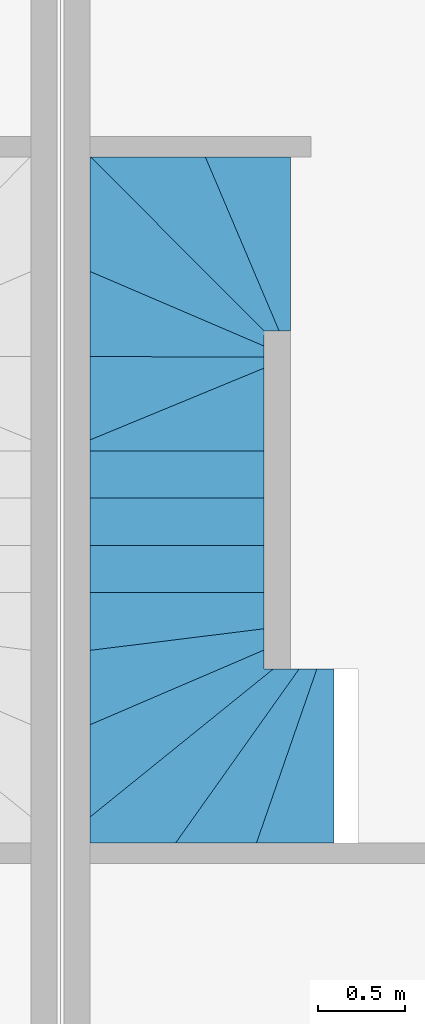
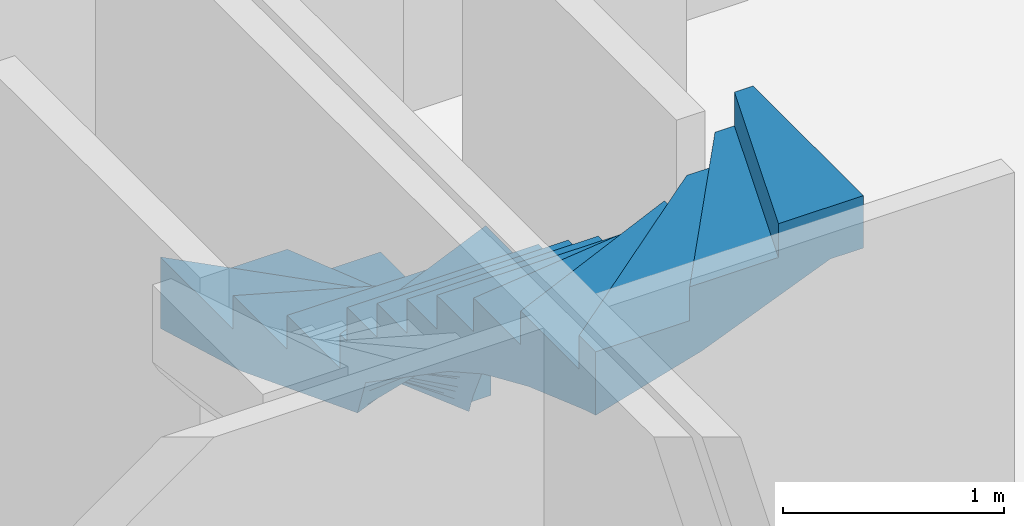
# One storey, part 4 of 8: 1 stair.
"""IFC2X3 building model written with IfcOpenShell, lengths in metres."""

from ifc_helpers import new_model, entity, si_unit, converted_unit, money_unit, direction, frame, origin_with_axes, place, context, subcontext, project, spatial, faceted_brep, source, transform, mapped, material, element, save


model = new_model("IFC2X3")

# Units and contexts
model_context = context("Model", 3, precision=1e-05, world=origin_with_axes(), true_north=direction((0.0, 1.0)))
body_context = subcontext(model_context, "Body", "Model", "MODEL_VIEW")
ifc_project = project(units=[si_unit("LENGTHUNIT", "METRE"), si_unit("AREAUNIT", "SQUARE_METRE"), si_unit("VOLUMEUNIT", "CUBIC_METRE"), converted_unit("PLANEANGLEUNIT", "DEGREE", entity("IfcPlaneAngleMeasure", 0.0174532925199), si_unit("PLANEANGLEUNIT", "RADIAN"), dimensions=[0, 0, 0, 0, 0, 0, 0]), si_unit("SOLIDANGLEUNIT", "STERADIAN"), money_unit("EUR"), si_unit("TIMEUNIT", "SECOND"), si_unit("MASSUNIT", "GRAM"), si_unit("THERMODYNAMICTEMPERATUREUNIT", "DEGREE_CELSIUS"), si_unit("LUMINOUSINTENSITYUNIT", "LUMEN")], contexts=[model_context])

# Site, building, storey
site_placement = place(None, origin_with_axes())
site = spatial("IfcSite", under=ifc_project, at=site_placement, Name="Gelände", CompositionType="ELEMENT")
building_placement = place(site_placement, origin_with_axes())
building = spatial("IfcBuilding", under=site, at=building_placement, Name="Gebäude", CompositionType="ELEMENT")
storey_placement = place(building_placement, origin_with_axes())
storey = spatial("IfcBuildingStorey", under=building, at=storey_placement, Name="Erdgeschoss", CompositionType="ELEMENT", Elevation=0.0)

# Stair
ifc_material = material(Name="Beton")
shared_shape = source(origin_with_axes(), body_context, "Body", "Brep", [
    faceted_brep([(0.0, 0.0, 0.0), (0.0, 0.0, 0.005), (-1.0, 0.0, 0.005), (-1.0, 0.0, 0.0), (0.0, 0.03966, 0.0), (0.0, 0.03966, 0.18667), (0.0, 0.0, 0.18667), (-1.0, 0.0, 0.18667), (-1.0, 0.0375, 0.18667), (-1.0, 0.0375, 0.0), (-1.0, 0.14947, 0.0), (0.0, 0.07931, 0.0), (0.0, 0.07931, 0.18667), (0.0, 0.11897, 0.18667), (0.0, 0.15862, 0.18667), (0.0, 0.19828, 0.18667), (0.0, 0.23793, 0.18667), (0.0, 0.27759, 0.18667), (0.0, 0.31724, 0.18667), (0.0, 0.3569, 0.18667), (0.0, 0.39655, 0.18667), (0.0, 0.43621, 0.18667), (0.0, 0.47586, 0.18667), (0.0, 0.48778, 0.18667), (-1.0, 0.06362, 0.18667), (-1.0, 0.06362, 0.0), (-1.0, 0.1125, 0.0), (0.0, 0.11897, 0.0), (0.0, 0.15862, 0.0), (0.0, 0.19828, 0.0), (0.0, 0.23793, 0.0), (0.0, 0.27759, 0.0), (0.0, 0.31724, 0.0), (0.0, 0.3569, 0.0), (0.0, 0.39655, 0.0), (0.0, 0.43621, 0.0), (0.0, 0.47586, 0.0), (0.0, 0.48778, 0.0), (0.0, 0.48778, 0.37333), (-1.0, 0.06362, 0.37333), (-1.0, 0.075, 0.37333), (-1.0, 0.075, 0.0), (-1.0, 0.1125, 0.37333), (-1.0, 0.14947, 0.37333), (-1.0613, 0.15, 0.0), (0.0, 0.51552, 0.0), (0.0, 0.51552, 0.37333), (0.0, 0.55517, 0.37333), (0.0, 0.5626, 0.37333), (0.0, 0.59483, 0.37333), (0.0, 0.63448, 0.37333), (0.0, 0.67414, 0.37333), (0.0, 0.71379, 0.37333), (0.0, 0.75345, 0.37333), (0.0, 0.7931, 0.37333), (0.0, 0.83276, 0.37333), (0.0, 0.87241, 0.37333), (0.0, 0.91207, 0.37333), (0.0, 0.95172, 0.37333), (0.0, 0.99138, 0.37333), (0.0, 1.03103, 0.37333), (0.0, 1.07069, 0.37333), (0.0, 1.11034, 0.37333), (0.0, 1.14594, 0.37333), (-1.0, 0.14947, 0.56), (-1.03959, 0.15, 0.56), (-1.03959, 0.15, 0.0), (0.0, 0.55517, 0.0), (0.0, 0.5626, 0.0), (0.0, 0.59483, 0.00912), (0.0, 0.63448, 0.02034), (0.0, 0.67414, 0.03155), (0.0, 0.71379, 0.04277), (0.0, 0.75345, 0.05399), (0.0, 0.7931, 0.06521), (0.0, 0.83276, 0.07643), (0.0, 0.87241, 0.08765), (0.0, 0.91207, 0.09887), (0.0, 0.95172, 0.11009), (0.0, 0.99138, 0.1213), (0.0, 1.03103, 0.13252), (0.0, 1.07069, 0.14374), (0.0, 1.11034, 0.15496), (0.0, 1.14594, 0.16503), (0.0, 1.14594, 0.56), (0.0, 1.15, 0.56), (-0.0398, 1.15, 0.56), (-0.0796, 1.15, 0.56), (-0.11939, 1.15, 0.56), (-0.15919, 1.15, 0.56), (-0.19899, 1.15, 0.56), (-0.23879, 1.15, 0.56), (-0.27859, 1.15, 0.56), (-0.31838, 1.15, 0.56), (-0.35818, 1.15, 0.56), (-0.39798, 1.15, 0.56), (-0.43778, 1.15, 0.56), (-0.47758, 1.15, 0.56), (-0.51737, 1.15, 0.56), (-0.55717, 1.15, 0.56), (-0.59697, 1.15, 0.56), (-0.63677, 1.15, 0.56), (-0.65732, 1.15, 0.56), (-1.08574, 0.15, 0.56), (-1.07918, 0.15, 0.56), (-1.0613, 0.15, 0.56), (-1.07918, 0.15, 0.05248), (-1.08574, 0.15, 0.0717), (-1.09962, 0.15, 0.11243), (-1.11878, 0.15, 0.15398), (0.0, 1.15, 0.16618), (-0.0398, 1.15, 0.17744), (-0.0796, 1.15, 0.1887), (-0.11939, 1.15, 0.19996), (-0.15919, 1.15, 0.21122), (-0.19899, 1.15, 0.22248), (-0.23879, 1.15, 0.23374), (-0.27859, 1.15, 0.245), (-0.31838, 1.15, 0.25625), (-0.35818, 1.15, 0.26751), (-0.39798, 1.15, 0.27877), (-0.43778, 1.15, 0.29003), (-0.47758, 1.15, 0.30129), (-0.51737, 1.15, 0.31255), (-0.55717, 1.15, 0.32381), (-0.59697, 1.15, 0.33507), (-0.63677, 1.15, 0.34633), (-0.65732, 1.15, 0.35214), (-0.65732, 1.15, 0.74667), (-1.08574, 0.15, 0.74667), (-1.14942, 0.15, 0.22044), (-1.15837, 0.15, 0.23985), (-1.19796, 0.15, 0.32571), (-1.21189, 0.15, 0.35593), (-0.67657, 1.15, 0.35759), (-0.67657, 1.15, 0.74667), (-0.71636, 1.15, 0.74667), (-0.72033, 1.15, 0.74667), (-0.75616, 1.15, 0.74667), (-0.79596, 1.15, 0.74667), (-0.83576, 1.15, 0.74667), (-0.87556, 1.15, 0.74667), (-0.91535, 1.15, 0.74667), (-0.95515, 1.15, 0.74667), (-0.99495, 1.15, 0.74667), (-1.03475, 1.15, 0.74667), (-1.07455, 1.15, 0.74667), (-1.11434, 1.15, 0.74667), (-1.14554, 1.15, 0.74667), (-1.14942, 0.15, 0.74667), (-1.11878, 0.15, 0.74667), (-1.09962, 0.15, 0.74667), (-0.71636, 1.15, 0.36885), (-0.72033, 1.15, 0.36997), (-0.75616, 1.15, 0.38381), (-0.79596, 1.15, 0.39918), (-0.83576, 1.15, 0.41456), (-0.87556, 1.15, 0.42993), (-0.91535, 1.15, 0.4453), (-0.95515, 1.15, 0.46067), (-0.99495, 1.15, 0.47605), (-1.03475, 1.15, 0.49142), (-1.07455, 1.15, 0.50679), (-1.11434, 1.15, 0.52217), (-1.14554, 1.15, 0.53422), (-1.14554, 1.15, 0.93333), (-1.14942, 0.15, 0.93333), (-1.15837, 0.15, 0.93333), (-1.19796, 0.15, 0.93333), (-1.21189, 0.15, 0.93333), (-1.23755, 0.15, 0.41158), (-1.27166, 0.15, 0.48556), (-1.27714, 0.15, 0.50173), (-1.15414, 1.15, 0.53754), (-1.15414, 1.15, 0.93333), (-1.19394, 1.15, 0.93333), (-1.23374, 1.15, 0.93333), (-1.27354, 1.15, 0.93333), (-1.31333, 1.15, 0.93333), (-1.35313, 1.15, 0.93333), (-1.39293, 1.15, 0.93333), (-1.43273, 1.15, 0.93333), (-1.47253, 1.15, 0.93333), (-1.51232, 1.15, 0.93333), (-1.55212, 1.15, 0.93333), (-1.59192, 1.15, 0.93333), (-1.62451, 1.15, 0.93333), (-1.21189, 0.15, 1.12), (-1.23755, 0.15, 1.12), (-1.19394, 1.15, 0.55291), (-1.23374, 1.15, 0.56829), (-1.27354, 1.15, 0.58366), (-1.31333, 1.15, 0.59903), (-1.35313, 1.15, 0.6144), (-1.39293, 1.15, 0.62978), (-1.43273, 1.15, 0.64515), (-1.47253, 1.15, 0.66052), (-1.51232, 1.15, 0.6759), (-1.55212, 1.15, 0.69127), (-1.59192, 1.15, 0.70664), (-1.62451, 1.15, 0.71923), (-1.62451, 1.15, 1.12), (-1.63172, 1.15, 1.12), (-1.67152, 1.15, 1.12), (-1.68892, 1.15, 1.12), (-1.68892, 0.15, 1.12), (-1.67306, 0.15, 1.12), (-1.63347, 0.15, 1.12), (-1.59388, 0.15, 1.12), (-1.55429, 0.15, 1.12), (-1.51469, 0.15, 1.12), (-1.4751, 0.15, 1.12), (-1.43551, 0.15, 1.12), (-1.39592, 0.15, 1.12), (-1.37187, 0.15, 1.12), (-1.35633, 0.15, 1.12), (-1.31673, 0.15, 1.12), (-1.27714, 0.15, 1.12), (-1.27166, 0.15, 1.12), (-1.31673, 0.15, 0.61852), (-1.35633, 0.15, 0.73532), (-1.63172, 1.15, 0.72201), (-1.67152, 1.15, 0.73739), (-1.68892, 1.15, 0.74411), (-1.68892, 1.15, 1.30667), (-1.68892, 0.15, 1.30667), (-1.67306, 0.15, 0.89903), (-1.68892, 0.15, 0.90523), (-1.63347, 0.15, 0.88353), (-1.59388, 0.15, 0.86804), (-1.55429, 0.15, 0.85255), (-1.51469, 0.15, 0.83706), (-1.4751, 0.15, 0.82156), (-1.43551, 0.15, 0.80607), (-1.39592, 0.15, 0.79058), (-1.37187, 0.15, 0.78117), (-1.71131, 1.15, 0.75276), (-1.71131, 1.15, 1.30667), (-1.75111, 1.15, 1.30667), (-1.78338, 1.15, 1.30667), (-1.79091, 1.15, 1.30667), (-1.83071, 1.15, 1.30667), (-1.85655, 1.15, 1.30667), (-1.87051, 1.15, 1.30667), (-1.9103, 1.15, 1.30667), (-1.9501, 1.15, 1.30667), (-1.95964, 1.15, 1.30667), (-1.95964, 0.15, 1.30667), (-1.9502, 0.15, 1.30667), (-1.91061, 0.15, 1.30667), (-1.87102, 0.15, 1.30667), (-1.83143, 0.15, 1.30667), (-1.79184, 0.15, 1.30667), (-1.78338, 0.15, 1.30667), (-1.75224, 0.15, 1.30667), (-1.71265, 0.15, 1.30667), (-1.71265, 0.15, 0.91452), (-1.83071, 1.15, 0.91776), (-1.79091, 1.15, 0.80242), (-1.78338, 1.15, 0.7806), (-1.75111, 1.15, 0.76813), (-1.85655, 1.15, 0.99265), (-1.87051, 1.15, 1.00227), (-1.9103, 1.15, 1.02971), (-1.9501, 1.15, 1.05715), (-1.95964, 1.15, 1.06373), (-1.95964, 1.15, 1.49333), (-1.95964, 0.15, 1.49333), (-1.9502, 0.15, 1.05723), (-1.95964, 0.15, 1.06373), (-1.91061, 0.15, 1.02993), (-1.87102, 0.15, 1.00263), (-1.83143, 0.15, 0.97533), (-1.79184, 0.15, 0.94803), (-1.78338, 0.15, 0.94219), (-1.75224, 0.15, 0.93001), (-1.9899, 1.15, 1.0846), (-1.9899, 1.15, 1.49333), (-2.0297, 1.15, 1.49333), (-2.06949, 1.15, 1.49333), (-2.10929, 1.15, 1.49333), (-2.14909, 1.15, 1.49333), (-2.18889, 1.15, 1.49333), (-2.22869, 1.15, 1.49333), (-2.23036, 1.15, 1.49333), (-2.23036, 0.15, 1.49333), (-2.22735, 0.15, 1.49333), (-2.18776, 0.15, 1.49333), (-2.14816, 0.15, 1.49333), (-2.10857, 0.15, 1.49333), (-2.06898, 0.15, 1.49333), (-2.02939, 0.15, 1.49333), (-1.9898, 0.15, 1.49333), (-1.9898, 0.15, 1.08452), (-2.0297, 1.15, 1.11204), (-2.06949, 1.15, 1.13948), (-2.10929, 1.15, 1.16692), (-2.14909, 1.15, 1.19436), (-2.18889, 1.15, 1.2218), (-2.22869, 1.15, 1.24924), (-2.23036, 1.15, 1.2504), (-2.23036, 1.15, 1.68), (-2.23036, 0.15, 1.68), (-2.22735, 0.15, 1.24832), (-2.23036, 0.15, 1.2504), (-2.18776, 0.15, 1.22102), (-2.14816, 0.15, 1.19372), (-2.10857, 0.15, 1.16642), (-2.06898, 0.15, 1.13912), (-2.02939, 0.15, 1.11182), (-2.26848, 1.15, 1.27669), (-2.26848, 1.15, 1.68), (-2.30828, 1.15, 1.68), (-2.34808, 1.15, 1.68), (-2.38788, 1.15, 1.68), (-2.42768, 1.15, 1.68), (-2.46747, 1.15, 1.68), (-2.50108, 1.15, 1.68), (-2.50108, 0.15, 1.68), (-2.4649, 0.15, 1.68), (-2.42531, 0.15, 1.68), (-2.38571, 0.15, 1.68), (-2.34612, 0.15, 1.68), (-2.30653, 0.15, 1.68), (-2.26694, 0.15, 1.68), (-2.26694, 0.15, 1.27562), (-2.30828, 1.15, 1.30413), (-2.34808, 1.15, 1.33157), (-2.38788, 1.15, 1.35901), (-2.42768, 1.15, 1.38645), (-2.46747, 1.15, 1.41389), (-2.50108, 1.15, 1.43706), (-2.50108, 1.15, 1.86667), (-2.50108, 0.15, 1.86667), (-2.4649, 0.15, 1.41212), (-2.50108, 0.15, 1.43706), (-2.42531, 0.15, 1.38482), (-2.38571, 0.15, 1.35752), (-2.34612, 0.15, 1.33022), (-2.30653, 0.15, 1.30292), (-2.50727, 1.15, 1.44134), (-2.50727, 1.15, 1.86667), (-2.54707, 1.15, 1.86667), (-2.58687, 1.15, 1.86667), (-2.60699, 1.15, 1.86667), (-2.62667, 1.15, 1.86667), (-2.66646, 1.15, 1.86667), (-2.70626, 1.15, 1.86667), (-2.74606, 1.15, 1.86667), (-2.78586, 1.15, 1.86667), (-2.82566, 1.15, 1.86667), (-2.83391, 1.15, 1.86667), (-2.70969, 0.15, 1.86667), (-2.70245, 0.15, 1.86667), (-2.66286, 0.15, 1.86667), (-2.62502, 0.15, 1.86667), (-2.62327, 0.15, 1.86667), (-2.58367, 0.15, 1.86667), (-2.54408, 0.15, 1.86667), (-2.50449, 0.15, 1.86667), (-2.50449, 0.15, 1.43942), (-2.54707, 1.15, 1.46878), (-2.58687, 1.15, 1.49622), (-2.60699, 1.15, 1.51009), (-2.62667, 1.15, 1.52113), (-2.66646, 1.15, 1.54345), (-2.70626, 1.15, 1.56577), (-2.74606, 1.15, 1.58809), (-2.78586, 1.15, 1.61041), (-2.82566, 1.15, 1.63273), (-2.83391, 1.15, 1.63736), (-2.83391, 1.15, 2.05333), (-2.70969, 0.15, 2.05333), (-2.70245, 0.15, 1.59181), (-2.70969, 0.15, 1.59829), (-2.66286, 0.15, 1.55638), (-2.62502, 0.15, 1.52253), (-2.62327, 0.15, 1.52131), (-2.58367, 0.15, 1.49401), (-2.54408, 0.15, 1.46672), (-2.74204, 0.15, 1.62724), (-2.86545, 1.15, 1.65505), (-2.86545, 1.15, 2.05333), (-2.90525, 1.15, 2.05333), (-2.9231, 1.15, 2.05333), (-2.94505, 1.15, 2.05333), (-2.98485, 1.15, 2.05333), (-3.02465, 1.15, 2.05333), (-3.06444, 1.15, 2.05333), (-3.10424, 1.15, 2.05333), (-3.14404, 1.15, 2.05333), (-3.18384, 1.15, 2.05333), (-3.22364, 1.15, 2.05333), (-3.26091, 1.15, 2.05333), (-2.83169, 0.15, 2.05333), (-2.82122, 0.15, 2.05333), (-2.78163, 0.15, 2.05333), (-2.74204, 0.15, 2.05333), (-2.78163, 0.15, 1.66266), (-2.90525, 1.15, 1.67737), (-2.9231, 1.15, 1.68738), (-2.94505, 1.15, 1.69698), (-2.98485, 1.15, 1.71438), (-3.02465, 1.15, 1.73177), (-3.06444, 1.15, 1.74917), (-3.10424, 1.15, 1.76657), (-3.14404, 1.15, 1.78397), (-3.18384, 1.15, 1.80137), (-3.22364, 1.15, 1.81876), (-3.26091, 1.15, 1.83506), (-3.26091, 1.15, 2.24), (-2.83169, 0.15, 2.24), (-2.82122, 0.15, 1.69809), (-2.83169, 0.15, 1.70745), (-2.86082, 0.15, 1.73352), (-2.86269, 0.15, 1.73519), (-2.90041, 0.15, 1.79291), (-2.94, 0.15, 1.85348), (-3.26343, 1.15, 1.83616), (-3.26343, 1.15, 2.24), (-3.30323, 1.15, 2.24), (-3.33429, 1.15, 2.24), (-3.34303, 1.15, 2.24), (-3.38283, 1.15, 2.24), (-3.42263, 1.15, 2.24), (-3.46242, 1.15, 2.24), (-3.50222, 1.15, 2.24), (-3.54202, 1.15, 2.24), (-3.58182, 1.15, 2.24), (-3.62162, 1.15, 2.24), (-3.66141, 1.15, 2.24), (-3.70121, 1.15, 2.24), (-3.74101, 1.15, 2.24), (-3.78081, 1.15, 2.24), (-3.79076, 1.15, 2.24), (-2.94, 0.09667, 2.24), (-2.94, 0.09828, 2.24), (-2.94, 0.11364, 2.24), (-2.94, 0.15, 2.24), (-2.90041, 0.15, 2.24), (-2.86269, 0.15, 2.24), (-2.86082, 0.15, 2.24), (-3.30323, 1.15, 1.85356), (-3.33429, 1.15, 1.86714), (-3.34303, 1.15, 1.87022), (-3.38283, 1.15, 1.88424), (-3.42263, 1.15, 1.89826), (-3.46242, 1.15, 1.91228), (-3.50222, 1.15, 1.9263), (-3.54202, 1.15, 1.94032), (-3.58182, 1.15, 1.95434), (-3.62162, 1.15, 1.96836), (-3.66141, 1.15, 1.98238), (-3.70121, 1.15, 1.9964), (-3.74101, 1.15, 2.01042), (-3.78081, 1.15, 2.02445), (-3.79076, 1.15, 2.02795), (-3.79076, 1.15, 2.42667), (-2.94, 0.09667, 2.42667), (-2.94, 0.09828, 1.93262), (-2.94, 0.09667, 1.93448), (-2.94, 0.11364, 1.90912), (-2.94, 0.07727, 1.95688), (-2.94, 0.04091, 1.99887), (-2.94, 0.00455, 2.04086), (-3.82061, 1.15, 2.03847), (-3.82061, 1.15, 2.42667), (-3.85201, 1.15, 2.42667), (-3.8604, 1.15, 2.42667), (-3.9002, 1.15, 2.42667), (-3.94, 1.15, 2.42667), (-3.94, 1.11111, 2.42667), (-3.94, 1.07222, 2.42667), (-3.94, 1.03333, 2.42667), (-3.94, 0.99444, 2.42667), (-3.94, 0.95556, 2.42667), (-3.94, 0.91667, 2.42667), (-3.94, 0.87778, 2.42667), (-3.94, 0.83889, 2.42667), (-3.94, 0.8, 2.42667), (-3.94, 0.76111, 2.42667), (-3.94, 0.72222, 2.42667), (-3.94, 0.68333, 2.42667), (-3.94, 0.65858, 2.42667), (-2.94, -0.05125, 2.42667), (-2.94, -0.03182, 2.42667), (-2.94, 0.00455, 2.42667), (-2.94, 0.04091, 2.42667), (-2.94, 0.07727, 2.42667), (-3.85201, 1.15, 2.04953), (-3.8604, 1.15, 2.05198), (-3.9002, 1.15, 2.06357), (-3.94, 1.15, 2.07517), (-3.94, 1.11111, 2.0865), (-3.94, 1.07222, 2.09783), (-3.94, 1.03333, 2.10916), (-3.94, 0.99444, 2.12049), (-3.94, 0.95556, 2.13182), (-3.94, 0.91667, 2.14315), (-3.94, 0.87778, 2.15448), (-3.94, 0.83889, 2.16581), (-3.94, 0.8, 2.17715), (-3.94, 0.76111, 2.18848), (-3.94, 0.72222, 2.19981), (-3.94, 0.68333, 2.21114), (-3.94, 0.65858, 2.21835), (-3.94, 0.65858, 2.61333), (-2.94, -0.05125, 2.61333), (-2.94, -0.03182, 2.08286), (-2.94, -0.05125, 2.1053), (-2.94, -0.05738, 2.11237), (-2.94, -0.06818, 2.12601), (-2.94, -0.10455, 2.1719), (-2.94, -0.14091, 2.21779), (-3.94, 0.64444, 2.22247), (-3.94, 0.64444, 2.61333), (-3.94, 0.60556, 2.61333), (-3.94, 0.59315, 2.61333), (-3.94, 0.56667, 2.61333), (-3.94, 0.52778, 2.61333), (-3.94, 0.48889, 2.61333), (-3.94, 0.45, 2.61333), (-3.94, 0.41111, 2.61333), (-3.94, 0.37222, 2.61333), (-3.94, 0.33333, 2.61333), (-3.94, 0.29444, 2.61333), (-3.94, 0.25556, 2.61333), (-3.94, 0.21667, 2.61333), (-3.94, 0.19426, 2.61333), (-2.94, -0.15282, 2.61333), (-2.94, -0.14091, 2.61333), (-2.94, -0.10455, 2.61333), (-2.94, -0.06818, 2.61333), (-2.94, -0.05738, 2.61333), (-3.94, 0.60556, 2.2338), (-3.94, 0.59315, 2.23742), (-3.94, 0.56667, 2.2482), (-3.94, 0.52778, 2.26404), (-3.94, 0.48889, 2.27988), (-3.94, 0.45, 2.29572), (-3.94, 0.41111, 2.31156), (-3.94, 0.37222, 2.3274), (-3.94, 0.33333, 2.34324), (-3.94, 0.29444, 2.35907), (-3.94, 0.25556, 2.37491), (-3.94, 0.21667, 2.39075), (-3.94, 0.19426, 2.39988), (-3.94, 0.19426, 2.8), (-2.94, -0.15282, 2.8), (-2.94, -0.15282, 2.23282), (-2.94, -0.17727, 2.26368), (-2.94, -0.21364, 2.30957), (-2.94, -0.21869, 2.31595), (-2.94, -0.25, 2.37348), (-3.94, 0.17778, 2.40659), (-3.94, 0.17778, 2.8), (-3.94, 0.13889, 2.8), (-3.94, 0.1, 2.8), (-3.94, 0.06111, 2.8), (-3.94, 0.02222, 2.8), (-3.94, -0.01667, 2.8), (-3.94, -0.05556, 2.8), (-3.94, -0.07611, 2.8), (-3.94, -0.09444, 2.8), (-3.94, -0.13333, 2.8), (-3.94, -0.17222, 2.8), (-3.94, -0.21111, 2.8), (-3.94, -0.25, 2.8), (-2.94, -0.25, 2.8), (-2.94, -0.21869, 2.8), (-2.94, -0.21364, 2.8), (-2.94, -0.17727, 2.8), (-3.94, 0.13889, 2.42243), (-3.94, 0.1, 2.43827), (-3.94, 0.06111, 2.45411), (-3.94, 0.02222, 2.46995), (-3.94, -0.01667, 2.48579), (-3.94, -0.05556, 2.50163), (-3.94, -0.07611, 2.51), (-3.94, -0.09444, 2.51), (-3.94, -0.13333, 2.51), (-3.94, -0.17222, 2.51), (-3.94, -0.21111, 2.51), (-3.94, -0.25, 2.51)], [[[0, 1, 2, 3]], [[0, 4, 5, 6, 1]], [[1, 6, 7, 2]], [[3, 2, 7, 8, 9]], [[3, 9, 0]], [[10, 4, 0]], [[4, 11, 12, 5]], [[6, 5, 12, 13, 14, 15, 16, 17, 18, 19, 20, 21, 22, 23, 24, 8, 7]], [[9, 8, 24, 25]], [[9, 25, 0]], [[10, 11, 4]], [[26, 10, 0]], [[11, 27, 13, 12]], [[27, 28, 14, 13]], [[28, 29, 15, 14]], [[29, 30, 16, 15]], [[30, 31, 17, 16]], [[31, 32, 18, 17]], [[32, 33, 19, 18]], [[33, 34, 20, 19]], [[34, 35, 21, 20]], [[35, 36, 22, 21]], [[36, 37, 23, 22]], [[23, 38, 39, 24]], [[25, 24, 39, 40, 41]], [[25, 41, 0]], [[10, 27, 11]], [[26, 42, 43, 10]], [[41, 26, 0]], [[10, 28, 27]], [[44, 29, 28]], [[44, 30, 29]], [[44, 31, 30]], [[44, 32, 31]], [[44, 33, 32]], [[44, 34, 33]], [[44, 35, 34]], [[44, 36, 35]], [[44, 37, 36]], [[37, 45, 46, 38, 23]], [[38, 46, 47, 48, 49, 50, 51, 52, 53, 54, 55, 56, 57, 58, 59, 60, 61, 62, 63, 43, 42, 40, 39]], [[41, 40, 42, 26]], [[10, 43, 64, 65, 66]], [[10, 66, 28]], [[66, 44, 28]], [[44, 45, 37]], [[45, 67, 47, 46]], [[67, 68, 48, 47]], [[68, 69, 49, 48]], [[69, 70, 50, 49]], [[70, 71, 51, 50]], [[71, 72, 52, 51]], [[72, 73, 53, 52]], [[73, 74, 54, 53]], [[74, 75, 55, 54]], [[75, 76, 56, 55]], [[76, 77, 57, 56]], [[77, 78, 58, 57]], [[78, 79, 59, 58]], [[79, 80, 60, 59]], [[80, 81, 61, 60]], [[81, 82, 62, 61]], [[82, 83, 63, 62]], [[63, 84, 64, 43]], [[84, 85, 86, 87, 88, 89, 90, 91, 92, 93, 94, 95, 96, 97, 98, 99, 100, 101, 102, 103, 104, 105, 65, 64]], [[66, 65, 105, 44]], [[44, 67, 45]], [[44, 68, 67]], [[44, 69, 68]], [[44, 70, 69]], [[44, 71, 70]], [[106, 72, 71]], [[106, 73, 72]], [[106, 74, 73]], [[107, 75, 74]], [[107, 76, 75]], [[108, 77, 76]], [[108, 78, 77]], [[108, 79, 78]], [[108, 80, 79]], [[109, 81, 80]], [[109, 82, 81]], [[109, 83, 82]], [[83, 110, 85, 84, 63]], [[110, 111, 86, 85]], [[111, 112, 87, 86]], [[112, 113, 88, 87]], [[113, 114, 89, 88]], [[114, 115, 90, 89]], [[115, 116, 91, 90]], [[116, 117, 92, 91]], [[117, 118, 93, 92]], [[118, 119, 94, 93]], [[119, 120, 95, 94]], [[120, 121, 96, 95]], [[121, 122, 97, 96]], [[122, 123, 98, 97]], [[123, 124, 99, 98]], [[124, 125, 100, 99]], [[125, 126, 101, 100]], [[126, 127, 102, 101]], [[102, 128, 129, 103]], [[106, 104, 103, 107]], [[44, 105, 104, 106]], [[44, 106, 71]], [[106, 107, 74]], [[107, 108, 76]], [[108, 109, 80]], [[109, 110, 83]], [[109, 111, 110]], [[109, 112, 111]], [[130, 113, 112]], [[130, 114, 113]], [[130, 115, 114]], [[130, 116, 115]], [[131, 117, 116]], [[131, 118, 117]], [[131, 119, 118]], [[131, 120, 119]], [[132, 121, 120]], [[132, 122, 121]], [[132, 123, 122]], [[132, 124, 123]], [[132, 125, 124]], [[132, 126, 125]], [[133, 127, 126]], [[127, 134, 135, 128, 102]], [[128, 135, 136, 137, 138, 139, 140, 141, 142, 143, 144, 145, 146, 147, 148, 149, 150, 151, 129]], [[107, 103, 129, 151, 108]], [[108, 151, 150, 109]], [[109, 130, 112]], [[130, 131, 116]], [[131, 132, 120]], [[132, 133, 126]], [[133, 134, 127]], [[134, 152, 136, 135]], [[152, 153, 137, 136]], [[153, 154, 138, 137]], [[154, 155, 139, 138]], [[155, 156, 140, 139]], [[156, 157, 141, 140]], [[157, 158, 142, 141]], [[158, 159, 143, 142]], [[159, 160, 144, 143]], [[160, 161, 145, 144]], [[161, 162, 146, 145]], [[162, 163, 147, 146]], [[163, 164, 148, 147]], [[148, 165, 166, 149]], [[109, 150, 149, 130]], [[130, 149, 166, 167, 131]], [[131, 167, 168, 132]], [[132, 168, 169, 133]], [[133, 152, 134]], [[133, 153, 152]], [[133, 154, 153]], [[170, 155, 154]], [[170, 156, 155]], [[170, 157, 156]], [[170, 158, 157]], [[171, 159, 158]], [[171, 160, 159]], [[171, 161, 160]], [[172, 162, 161]], [[172, 163, 162]], [[172, 164, 163]], [[164, 173, 174, 165, 148]], [[165, 174, 175, 176, 177, 178, 179, 180, 181, 182, 183, 184, 185, 186, 169, 168, 167, 166]], [[133, 169, 187, 188, 170]], [[133, 170, 154]], [[170, 171, 158]], [[171, 172, 161]], [[172, 173, 164]], [[173, 189, 175, 174]], [[189, 190, 176, 175]], [[190, 191, 177, 176]], [[191, 192, 178, 177]], [[192, 193, 179, 178]], [[193, 194, 180, 179]], [[194, 195, 181, 180]], [[195, 196, 182, 181]], [[196, 197, 183, 182]], [[197, 198, 184, 183]], [[198, 199, 185, 184]], [[199, 200, 186, 185]], [[186, 201, 187, 169]], [[201, 202, 203, 204, 205, 206, 207, 208, 209, 210, 211, 212, 213, 214, 215, 216, 217, 218, 188, 187]], [[170, 188, 218, 171]], [[171, 218, 217, 172]], [[172, 189, 173]], [[219, 190, 189]], [[219, 191, 190]], [[219, 192, 191]], [[219, 193, 192]], [[219, 194, 193]], [[219, 195, 194]], [[219, 196, 195]], [[219, 197, 196]], [[220, 198, 197]], [[220, 199, 198]], [[220, 200, 199]], [[200, 221, 202, 201, 186]], [[221, 222, 203, 202]], [[222, 223, 204, 203]], [[204, 224, 225, 205]], [[226, 206, 205, 227]], [[228, 207, 206, 226]], [[229, 208, 207, 228]], [[230, 209, 208, 229]], [[231, 210, 209, 230]], [[232, 211, 210, 231]], [[233, 212, 211, 232]], [[234, 213, 212, 233]], [[235, 214, 213, 234]], [[220, 215, 214, 235]], [[219, 216, 215, 220]], [[172, 217, 216, 219]], [[172, 219, 189]], [[219, 220, 197]], [[220, 221, 200]], [[220, 222, 221]], [[220, 223, 222]], [[223, 236, 237, 224, 204]], [[224, 237, 238, 239, 240, 241, 242, 243, 244, 245, 246, 247, 248, 249, 250, 251, 252, 253, 254, 255, 225]], [[227, 205, 225, 255, 256]], [[226, 227, 257]], [[228, 226, 257]], [[229, 228, 257]], [[230, 229, 257]], [[231, 230, 258]], [[232, 231, 258]], [[233, 232, 258]], [[234, 233, 258]], [[235, 234, 259]], [[220, 235, 236]], [[220, 236, 223]], [[236, 260, 238, 237]], [[260, 259, 239, 238]], [[259, 258, 240, 239]], [[258, 257, 241, 240]], [[257, 261, 242, 241]], [[261, 262, 243, 242]], [[262, 263, 244, 243]], [[263, 264, 245, 244]], [[264, 265, 246, 245]], [[246, 266, 267, 247]], [[268, 248, 247, 269]], [[270, 249, 248, 268]], [[271, 250, 249, 270]], [[272, 251, 250, 271]], [[273, 252, 251, 272]], [[274, 253, 252, 273]], [[275, 254, 253, 274]], [[256, 255, 254, 275]], [[227, 256, 257]], [[230, 257, 258]], [[234, 258, 259]], [[235, 259, 260]], [[235, 260, 236]], [[273, 261, 257]], [[271, 262, 261]], [[271, 263, 262]], [[270, 264, 263]], [[268, 265, 264]], [[265, 276, 277, 266, 246]], [[266, 277, 278, 279, 280, 281, 282, 283, 284, 285, 286, 287, 288, 289, 290, 291, 292, 267]], [[269, 247, 267, 292, 293]], [[268, 269, 265]], [[270, 268, 264]], [[271, 270, 263]], [[272, 271, 261]], [[273, 272, 261]], [[274, 273, 257]], [[275, 274, 257]], [[256, 275, 257]], [[293, 276, 265]], [[276, 294, 278, 277]], [[294, 295, 279, 278]], [[295, 296, 280, 279]], [[296, 297, 281, 280]], [[297, 298, 282, 281]], [[298, 299, 283, 282]], [[299, 300, 284, 283]], [[284, 301, 302, 285]], [[303, 286, 285, 304]], [[305, 287, 286, 303]], [[306, 288, 287, 305]], [[307, 289, 288, 306]], [[308, 290, 289, 307]], [[309, 291, 290, 308]], [[293, 292, 291, 309]], [[269, 293, 265]], [[293, 309, 276]], [[309, 294, 276]], [[308, 295, 294]], [[307, 296, 295]], [[306, 297, 296]], [[305, 298, 297]], [[303, 299, 298]], [[304, 300, 299]], [[300, 310, 311, 301, 284]], [[301, 311, 312, 313, 314, 315, 316, 317, 318, 319, 320, 321, 322, 323, 324, 302]], [[304, 285, 302, 324, 325]], [[303, 304, 299]], [[305, 303, 298]], [[306, 305, 297]], [[307, 306, 296]], [[308, 307, 295]], [[309, 308, 294]], [[304, 325, 300]], [[325, 310, 300]], [[310, 326, 312, 311]], [[326, 327, 313, 312]], [[327, 328, 314, 313]], [[328, 329, 315, 314]], [[329, 330, 316, 315]], [[330, 331, 317, 316]], [[317, 332, 333, 318]], [[334, 319, 318, 335]], [[336, 320, 319, 334]], [[337, 321, 320, 336]], [[338, 322, 321, 337]], [[339, 323, 322, 338]], [[325, 324, 323, 339]], [[325, 339, 310]], [[339, 326, 310]], [[338, 327, 326]], [[337, 328, 327]], [[336, 329, 328]], [[334, 330, 329]], [[335, 331, 330]], [[331, 340, 341, 332, 317]], [[332, 341, 342, 343, 344, 345, 346, 347, 348, 349, 350, 351, 352, 353, 354, 355, 356, 357, 358, 359, 333]], [[335, 318, 333, 359, 360]], [[334, 335, 330]], [[336, 334, 329]], [[337, 336, 328]], [[338, 337, 327]], [[339, 338, 326]], [[335, 360, 331]], [[360, 340, 331]], [[340, 361, 342, 341]], [[361, 362, 343, 342]], [[362, 363, 344, 343]], [[363, 364, 345, 344]], [[364, 365, 346, 345]], [[365, 366, 347, 346]], [[366, 367, 348, 347]], [[367, 368, 349, 348]], [[368, 369, 350, 349]], [[369, 370, 351, 350]], [[351, 371, 372, 352]], [[373, 353, 352, 374]], [[375, 354, 353, 373]], [[376, 355, 354, 375]], [[377, 356, 355, 376]], [[378, 357, 356, 377]], [[379, 358, 357, 378]], [[360, 359, 358, 379]], [[360, 379, 340]], [[379, 361, 340]], [[378, 362, 361]], [[378, 363, 362]], [[377, 364, 363]], [[376, 365, 364]], [[375, 366, 365]], [[373, 367, 366]], [[374, 368, 367]], [[380, 369, 368]], [[380, 370, 369]], [[370, 381, 382, 371, 351]], [[371, 382, 383, 384, 385, 386, 387, 388, 389, 390, 391, 392, 393, 394, 395, 396, 397, 372]], [[374, 352, 372, 397, 380]], [[373, 374, 367]], [[375, 373, 366]], [[376, 375, 365]], [[377, 376, 364]], [[378, 377, 363]], [[379, 378, 361]], [[374, 380, 368]], [[380, 398, 370]], [[398, 381, 370]], [[381, 399, 383, 382]], [[399, 400, 384, 383]], [[400, 401, 385, 384]], [[401, 402, 386, 385]], [[402, 403, 387, 386]], [[403, 404, 388, 387]], [[404, 405, 389, 388]], [[405, 406, 390, 389]], [[406, 407, 391, 390]], [[407, 408, 392, 391]], [[408, 409, 393, 392]], [[393, 410, 411, 394]], [[412, 395, 394, 413]], [[398, 396, 395, 412]], [[380, 397, 396, 398]], [[398, 399, 381]], [[412, 400, 399]], [[412, 401, 400]], [[413, 402, 401]], [[414, 403, 402]], [[415, 404, 403]], [[415, 405, 404]], [[416, 406, 405]], [[416, 407, 406]], [[416, 408, 407]], [[417, 409, 408]], [[409, 418, 419, 410, 393]], [[410, 419, 420, 421, 422, 423, 424, 425, 426, 427, 428, 429, 430, 431, 432, 433, 434, 435, 436, 437, 438, 439, 440, 441, 411]], [[413, 394, 411, 441, 414]], [[412, 413, 401]], [[398, 412, 399]], [[413, 414, 402]], [[414, 415, 403]], [[415, 416, 405]], [[416, 417, 408]], [[417, 418, 409]], [[418, 442, 420, 419]], [[442, 443, 421, 420]], [[443, 444, 422, 421]], [[444, 445, 423, 422]], [[445, 446, 424, 423]], [[446, 447, 425, 424]], [[447, 448, 426, 425]], [[448, 449, 427, 426]], [[449, 450, 428, 427]], [[450, 451, 429, 428]], [[451, 452, 430, 429]], [[452, 453, 431, 430]], [[453, 454, 432, 431]], [[454, 455, 433, 432]], [[455, 456, 434, 433]], [[434, 457, 458, 435]], [[459, 436, 435, 460]], [[461, 437, 436, 459]], [[417, 438, 437, 461]], [[416, 439, 438, 417]], [[415, 440, 439, 416]], [[414, 441, 440, 415]], [[417, 442, 418]], [[417, 443, 442]], [[417, 444, 443]], [[417, 445, 444]], [[461, 446, 445]], [[461, 447, 446]], [[461, 448, 447]], [[459, 449, 448]], [[462, 450, 449]], [[462, 451, 450]], [[462, 452, 451]], [[463, 453, 452]], [[463, 454, 453]], [[463, 455, 454]], [[464, 456, 455]], [[456, 465, 466, 457, 434]], [[457, 466, 467, 468, 469, 470, 471, 472, 473, 474, 475, 476, 477, 478, 479, 480, 481, 482, 483, 484, 485, 486, 487, 488, 458]], [[460, 435, 458, 488, 462]], [[459, 460, 449]], [[461, 459, 448]], [[417, 461, 445]], [[460, 462, 449]], [[462, 463, 452]], [[463, 464, 455]], [[464, 465, 456]], [[465, 489, 467, 466]], [[489, 490, 468, 467]], [[490, 491, 469, 468]], [[491, 492, 470, 469]], [[492, 493, 471, 470]], [[493, 494, 472, 471]], [[494, 495, 473, 472]], [[495, 496, 474, 473]], [[496, 497, 475, 474]], [[497, 498, 476, 475]], [[498, 499, 477, 476]], [[499, 500, 478, 477]], [[500, 501, 479, 478]], [[501, 502, 480, 479]], [[502, 503, 481, 480]], [[503, 504, 482, 481]], [[504, 505, 483, 482]], [[483, 506, 507, 484]], [[508, 485, 484, 509]], [[464, 486, 485, 508]], [[463, 487, 486, 464]], [[462, 488, 487, 463]], [[464, 489, 465]], [[464, 490, 489]], [[464, 491, 490]], [[508, 492, 491]], [[508, 493, 492]], [[508, 494, 493]], [[509, 495, 494]], [[510, 496, 495]], [[511, 497, 496]], [[511, 498, 497]], [[511, 499, 498]], [[512, 500, 499]], [[512, 501, 500]], [[512, 502, 501]], [[512, 503, 502]], [[513, 504, 503]], [[513, 505, 504]], [[505, 514, 515, 506, 483]], [[506, 515, 516, 517, 518, 519, 520, 521, 522, 523, 524, 525, 526, 527, 528, 529, 530, 531, 532, 533, 507]], [[509, 484, 507, 533, 510]], [[508, 509, 494]], [[464, 508, 491]], [[509, 510, 495]], [[510, 511, 496]], [[511, 512, 499]], [[512, 513, 503]], [[513, 514, 505]], [[514, 534, 516, 515]], [[534, 535, 517, 516]], [[535, 536, 518, 517]], [[536, 537, 519, 518]], [[537, 538, 520, 519]], [[538, 539, 521, 520]], [[539, 540, 522, 521]], [[540, 541, 523, 522]], [[541, 542, 524, 523]], [[542, 543, 525, 524]], [[543, 544, 526, 525]], [[544, 545, 527, 526]], [[545, 546, 528, 527]], [[528, 547, 548, 529]], [[513, 530, 529, 549]], [[512, 531, 530, 513]], [[511, 532, 531, 512]], [[510, 533, 532, 511]], [[513, 549, 514]], [[549, 534, 514]], [[549, 535, 534]], [[549, 536, 535]], [[550, 537, 536]], [[550, 538, 537]], [[551, 539, 538]], [[551, 540, 539]], [[552, 541, 540]], [[552, 542, 541]], [[553, 543, 542]], [[553, 544, 543]], [[553, 545, 544]], [[553, 546, 545]], [[546, 554, 555, 547, 528]], [[547, 555, 556, 557, 558, 559, 560, 561, 562, 563, 564, 565, 566, 567, 568, 569, 570, 571, 548]], [[549, 529, 548, 571, 550]], [[549, 550, 536]], [[550, 551, 538]], [[551, 552, 540]], [[552, 553, 542]], [[553, 554, 546]], [[554, 572, 556, 555]], [[572, 573, 557, 556]], [[573, 574, 558, 557]], [[574, 575, 559, 558]], [[575, 576, 560, 559]], [[576, 577, 561, 560]], [[577, 578, 562, 561]], [[578, 579, 563, 562]], [[579, 580, 564, 563]], [[580, 581, 565, 564]], [[581, 582, 566, 565]], [[582, 583, 567, 566]], [[553, 568, 567, 583]], [[552, 569, 568, 553]], [[551, 570, 569, 552]], [[550, 571, 570, 551]], [[553, 572, 554]], [[553, 573, 572]], [[553, 574, 573]], [[553, 575, 574]], [[553, 576, 575]], [[553, 577, 576]], [[553, 578, 577]], [[553, 579, 578]], [[553, 580, 579]], [[553, 581, 580]], [[553, 582, 581]], [[553, 583, 582]]]),
])
stair_placement = place(storey_placement, frame((13.6740175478, 0.987794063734, 0.0), z_axis=(0.0, 0.0, 1.0), x_axis=(0.0, 1.0, 0.0)))
element("IfcStair", 1, at=stair_placement, inside=storey, material=ifc_material, Name="Treppe C/ (EG-DG)", ShapeType="NOTDEFINED", context=body_context, shape_type="MappedRepresentation", body=[
    mapped(shared_shape, transform((0.0, 0.0, 0.0))),
])

save(model, "model.ifc")
